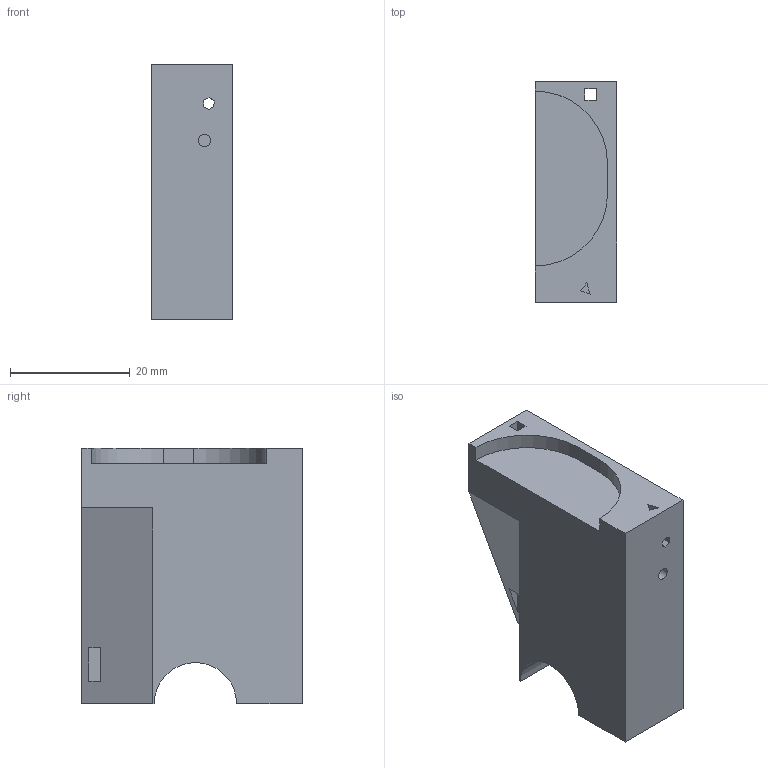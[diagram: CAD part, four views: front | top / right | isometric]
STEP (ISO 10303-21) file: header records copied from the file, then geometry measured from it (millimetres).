
FILE_DESCRIPTION(('Open CASCADE Model'),'2;1');
FILE_NAME('Open CASCADE Shape Model','2021-04-30T09:05:10',('Author'),( 'Open CASCADE'),'Open CASCADE STEP processor 7.4','Open CASCADE 7.4' ,'Unknown');
FILE_SCHEMA(('AUTOMOTIVE_DESIGN { 1 0 10303 214 1 1 1 1 }'));
Length unit declared in the file: millimetre
Products named in the file (1): Open CASCADE STEP translator 7.4 20
Bounding box: 13.67 x 36.98 x 42.73 mm (x, y, z)
Volume: 17108.1 mm3; surface area: 5878.9 mm2
Topology: 1 solids, 1 shells, 43 faces, 117 edges, 78 vertices
Faces by surface type: plane 38, cylinder 5
Full cylindrical faces by diameter (mm): 2 x1, 3.13 x1
Entity records: 2843 total; most frequent: CARTESIAN_POINT 523, DIRECTION 404, LINE 287, VECTOR 287, ORIENTED_EDGE 234, PCURVE 234, DEFINITIONAL_REPRESENTATION 234, EDGE_CURVE 117
